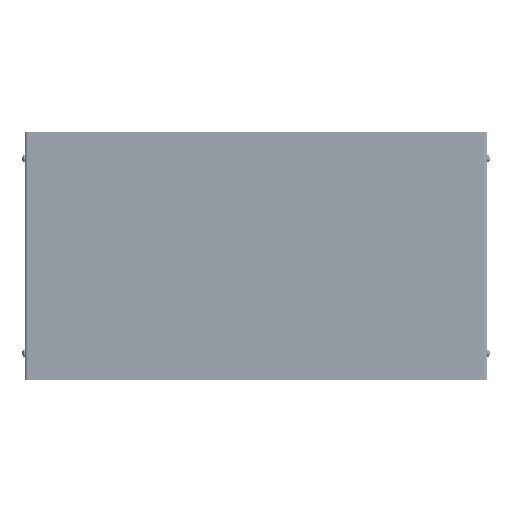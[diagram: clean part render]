
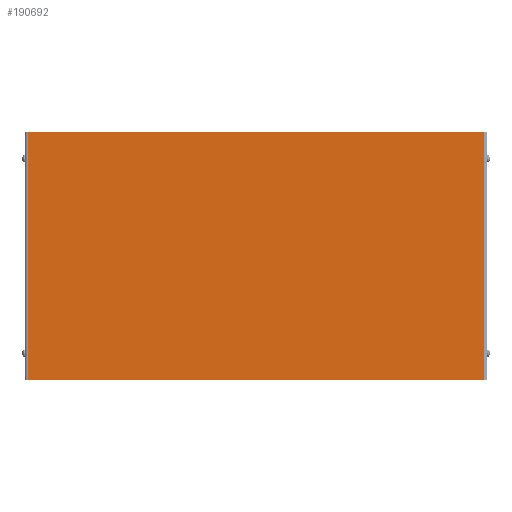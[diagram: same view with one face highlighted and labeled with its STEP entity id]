
A CAD part, top view. The second image highlights one B-rep face of the part: STEP entity #190692.
In plain terms, the highlighted planar face has unit normal (0, 0, 1).
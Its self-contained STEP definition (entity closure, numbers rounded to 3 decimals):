
#28529=LINE('',#324219,#45889);
#28537=LINE('',#324243,#45897);
#28550=LINE('',#324280,#45910);
#28553=LINE('',#324285,#45913);
#45889=VECTOR('',#220673,10.);
#45897=VECTOR('',#220695,10.);
#45910=VECTOR('',#220736,10.);
#45913=VECTOR('',#220743,10.);
#61492=FACE_OUTER_BOUND('',#72417,.T.);
#72417=EDGE_LOOP('',(#157068,#157069,#157070,#157071));
#89934=VERTEX_POINT('',#324216);
#89935=VERTEX_POINT('',#324218);
#89943=VERTEX_POINT('',#324240);
#89944=VERTEX_POINT('',#324242);
#113351=EDGE_CURVE('',#89935,#89934,#28529,.T.);
#113363=EDGE_CURVE('',#89944,#89943,#28537,.T.);
#113383=EDGE_CURVE('',#89935,#89943,#28550,.T.);
#113386=EDGE_CURVE('',#89944,#89934,#28553,.T.);
#157068=ORIENTED_EDGE('',*,*,#113383,.F.);
#157069=ORIENTED_EDGE('',*,*,#113351,.T.);
#157070=ORIENTED_EDGE('',*,*,#113386,.F.);
#157071=ORIENTED_EDGE('',*,*,#113363,.T.);
#182463=PLANE('',#198566);
#190692=ADVANCED_FACE('',(#61492),#182463,.T.);
#198566=AXIS2_PLACEMENT_3D('',#324288,#220748,#220749);
#220673=DIRECTION('',(1.,0.,0.));
#220695=DIRECTION('',(-1.,0.,0.));
#220736=DIRECTION('',(0.,1.,0.));
#220743=DIRECTION('',(0.,-1.,0.));
#220748=DIRECTION('center_axis',(0.,0.,1.));
#220749=DIRECTION('ref_axis',(1.,0.,0.));
#324216=CARTESIAN_POINT('',(420.903,0.,0.));
#324218=CARTESIAN_POINT('',(1.524,0.,0.));
#324219=CARTESIAN_POINT('',(-1.524,0.,0.));
#324240=CARTESIAN_POINT('',(1.524,228.6,0.));
#324242=CARTESIAN_POINT('',(420.903,228.6,0.));
#324243=CARTESIAN_POINT('',(423.951,228.6,0.));
#324280=CARTESIAN_POINT('',(1.524,57.15,0.));
#324285=CARTESIAN_POINT('',(420.903,171.45,0.));
#324288=CARTESIAN_POINT('Origin',(211.214,114.3,0.));
